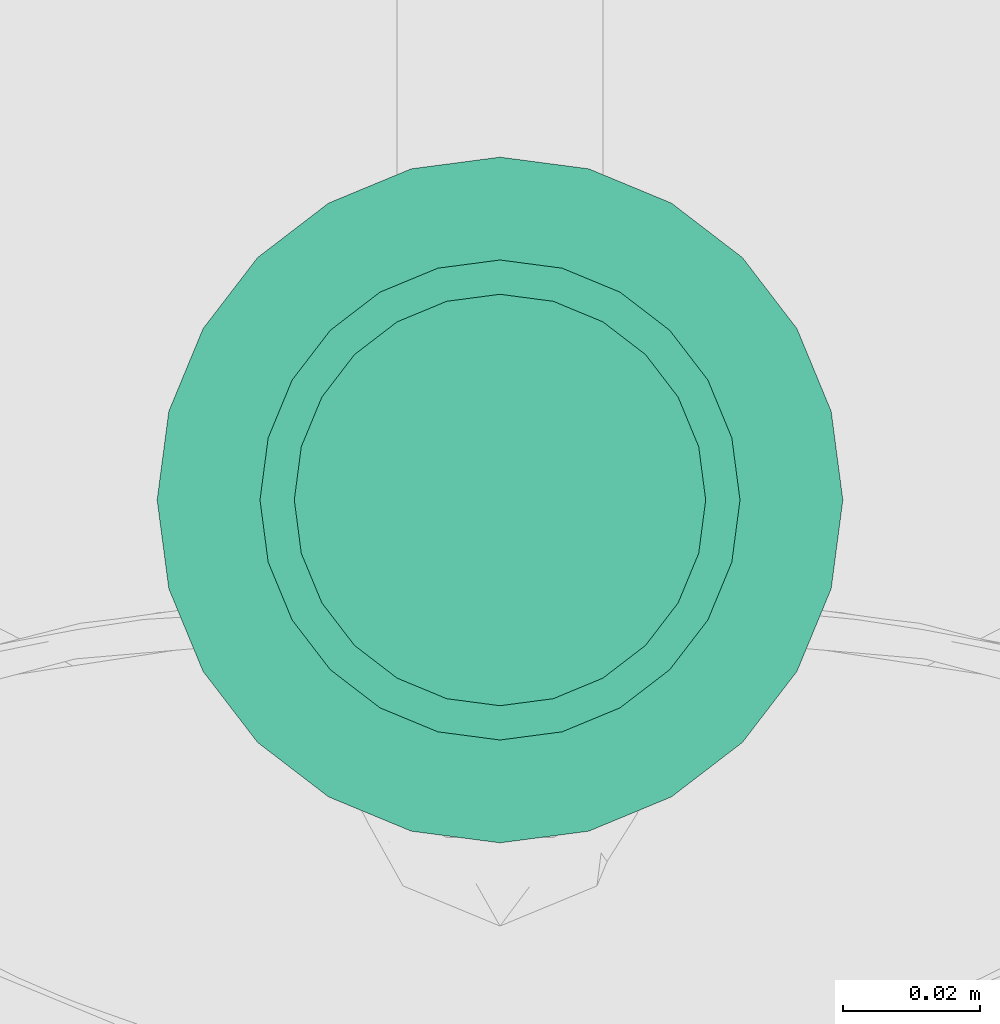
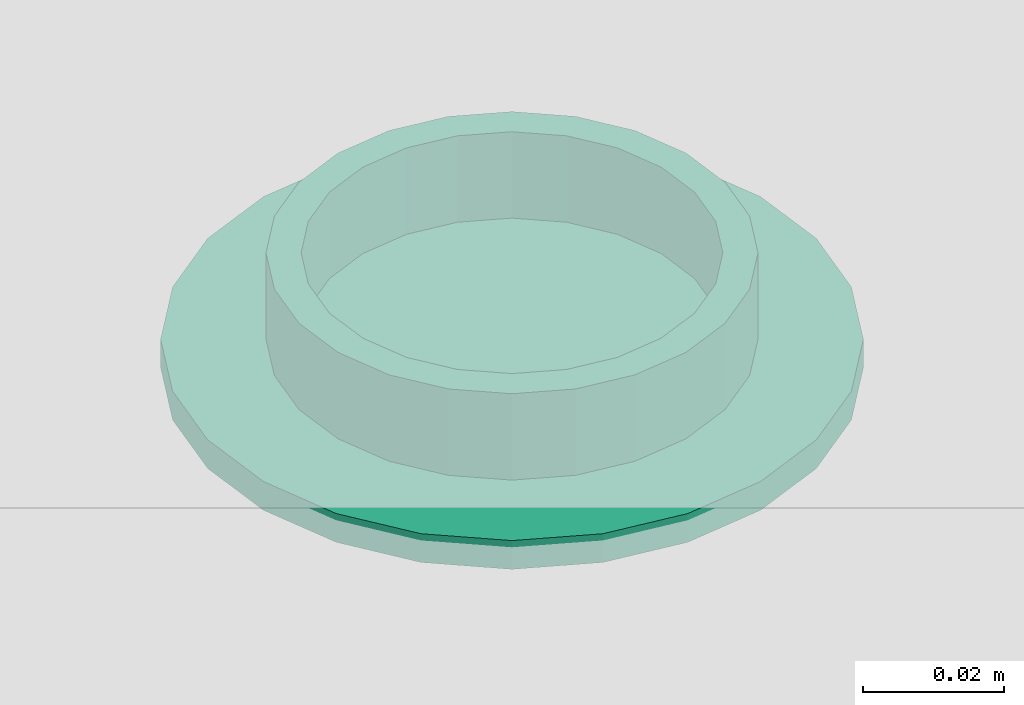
# One storey, part 23 of 40: 1 flow terminal.
"""IFC2X3 building model written with IfcOpenShell, lengths in metres."""

from ifc_helpers import new_model, entity, si_unit, converted_unit, derived_unit, direction, frame, origin, place, context, subcontext, project, spatial, faceted_brep, source, transform, mapped, material, material_list, type_object, type_shapes, element, save


model = new_model("IFC2X3")

# Units and contexts
model_context = context("Model", 3, precision=1e-05, world=origin(), true_north=direction((6.12303176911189e-17, 1.0)))
body_context = subcontext(model_context, "Body", "Model", "MODEL_VIEW")
ifc_project = project(units=[si_unit("LENGTHUNIT", "METRE"), si_unit("AREAUNIT", "SQUARE_METRE"), si_unit("VOLUMEUNIT", "CUBIC_METRE"), converted_unit("PLANEANGLEUNIT", "DEGREE", entity("IfcRatioMeasure", 0.0174532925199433), si_unit("PLANEANGLEUNIT", "RADIAN"), dimensions=[0, 0, 0, 0, 0, 0, 0]), si_unit("MASSUNIT", "GRAM", prefix="KILO"), derived_unit("MASSDENSITYUNIT", [(si_unit("MASSUNIT", "GRAM", prefix="KILO"), 1), (si_unit("LENGTHUNIT", "METRE"), -3)]), si_unit("TIMEUNIT", "SECOND"), si_unit("FREQUENCYUNIT", "HERTZ"), si_unit("THERMODYNAMICTEMPERATUREUNIT", "DEGREE_CELSIUS"), derived_unit("THERMALTRANSMITTANCEUNIT", [(si_unit("MASSUNIT", "GRAM", prefix="KILO"), 1), (si_unit("THERMODYNAMICTEMPERATUREUNIT", "KELVIN"), -1), (si_unit("TIMEUNIT", "SECOND"), -3)]), derived_unit("VOLUMETRICFLOWRATEUNIT", [(si_unit("LENGTHUNIT", "METRE"), 3), (si_unit("TIMEUNIT", "SECOND"), -1)]), si_unit("ELECTRICCURRENTUNIT", "AMPERE"), si_unit("ELECTRICVOLTAGEUNIT", "VOLT"), si_unit("POWERUNIT", "WATT"), si_unit("FORCEUNIT", "NEWTON", prefix="KILO"), si_unit("ILLUMINANCEUNIT", "LUX"), si_unit("LUMINOUSFLUXUNIT", "LUMEN"), si_unit("LUMINOUSINTENSITYUNIT", "CANDELA"), derived_unit("USERDEFINED", [(si_unit("MASSUNIT", "GRAM", prefix="KILO"), -1), (si_unit("LENGTHUNIT", "METRE"), -2), (si_unit("TIMEUNIT", "SECOND"), 3), (si_unit("LUMINOUSFLUXUNIT", "LUMEN"), 1)]), derived_unit("LINEARVELOCITYUNIT", [(si_unit("LENGTHUNIT", "METRE"), 1), (si_unit("TIMEUNIT", "SECOND"), -1)]), si_unit("PRESSUREUNIT", "PASCAL"), derived_unit("USERDEFINED", [(si_unit("LENGTHUNIT", "METRE"), -2), (si_unit("MASSUNIT", "GRAM", prefix="KILO"), 1), (si_unit("TIMEUNIT", "SECOND"), -2)])], contexts=[model_context])

# Site, building, storey, space
site_placement = place(None, origin())
site = spatial("IfcSite", under=ifc_project, at=site_placement, Name="Surface", CompositionType="ELEMENT")
building_placement = place(site_placement, origin())
building = spatial("IfcBuilding", under=site, at=building_placement, CompositionType="ELEMENT")
storey_placement = place(building_placement, origin())
storey = spatial("IfcBuildingStorey", under=building, at=storey_placement, Name="RDC", CompositionType="ELEMENT", Elevation=-1.0941605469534e-13)
space_placement = place(storey_placement, origin())
space = spatial("IfcSpace", under=storey, at=space_placement, Name="22", CompositionType="ELEMENT", InteriorOrExteriorSpace="INTERNAL")

# Flow terminal
ifc_material_1 = material(Name="Verre - Lampe")
ifc_material_2 = material(Name="Plastique - Blanc")
ifc_material_list_1 = material_list([ifc_material_1, ifc_material_2])
ifc_material_list_2 = material_list([ifc_material_1, ifc_material_2])
light_fixture_type = type_object("IfcLightFixtureType", Name="Encastrable", PredefinedType="NOTDEFINED", material=ifc_material_list_2)
shared_shape = source(origin(), body_context, "Body", "Brep", [
    faceted_brep([(0.0593598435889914, 0.0226174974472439, 0.00300000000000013), (0.0515952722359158, 0.021595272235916, 0.00300000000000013), (0.0438307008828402, 0.022617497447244, 0.00300000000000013), (0.0365952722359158, 0.0256145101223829, 0.0030000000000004), (0.0303820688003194, 0.0303820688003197, 0.0030000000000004), (0.0256145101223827, 0.0365952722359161, 0.0030000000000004), (0.0226174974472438, 0.0438307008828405, 0.0030000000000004), (0.0215952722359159, 0.0515952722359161, 0.0030000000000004), (0.0226174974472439, 0.0593598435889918, 0.0030000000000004), (0.0256145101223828, 0.0665952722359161, 0.0030000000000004), (0.0303820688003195, 0.0728084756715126, 0.0030000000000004), (0.036595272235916, 0.0775760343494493, 0.0030000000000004), (0.0438307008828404, 0.0805730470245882, 0.00300000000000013), (0.051595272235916, 0.0815952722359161, 0.00300000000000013), (0.0593598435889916, 0.0805730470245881, 0.00300000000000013), (0.066595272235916, 0.0775760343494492, 0.00300000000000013), (0.0728084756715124, 0.0728084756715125, 0.00300000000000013), (0.0775760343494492, 0.0665952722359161, 0.00300000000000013), (0.080573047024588, 0.0593598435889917, 0.00300000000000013), (0.081595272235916, 0.0515952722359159, 0.00300000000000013), (0.080573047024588, 0.0438307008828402, 0.00300000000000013), (0.0775760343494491, 0.0365952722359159, 0.00300000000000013), (0.0728084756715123, 0.0303820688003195, 0.00300000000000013), (0.0665952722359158, 0.0256145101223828, 0.00300000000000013), (0.066595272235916, 0.0775760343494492, 0.00500000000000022), (0.0593598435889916, 0.0805730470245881, 0.00500000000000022), (0.051595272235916, 0.0815952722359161, 0.00500000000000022), (0.0438307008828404, 0.0805730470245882, 0.00500000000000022), (0.036595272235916, 0.0775760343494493, 0.00500000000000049), (0.0303820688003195, 0.0728084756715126, 0.00500000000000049), (0.0256145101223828, 0.0665952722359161, 0.00500000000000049), (0.0226174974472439, 0.0593598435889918, 0.00500000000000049), (0.0215952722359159, 0.0515952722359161, 0.00500000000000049), (0.0226174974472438, 0.0438307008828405, 0.00500000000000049), (0.0256145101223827, 0.0365952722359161, 0.00500000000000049), (0.0303820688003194, 0.0303820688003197, 0.00500000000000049), (0.0365952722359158, 0.0256145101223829, 0.00500000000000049), (0.0438307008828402, 0.022617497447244, 0.00500000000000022), (0.0515952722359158, 0.021595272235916, 0.00500000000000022), (0.0593598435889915, 0.0226174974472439, 0.00500000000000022), (0.0665952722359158, 0.0256145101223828, 0.00500000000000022), (0.0728084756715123, 0.0303820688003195, 0.00500000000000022), (0.0775760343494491, 0.0365952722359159, 0.00500000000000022), (0.080573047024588, 0.0438307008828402, 0.00500000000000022), (0.081595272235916, 0.051595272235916, 0.00500000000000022), (0.0805730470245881, 0.0593598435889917, 0.00500000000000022), (0.0775760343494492, 0.0665952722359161, 0.00500000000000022), (0.0728084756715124, 0.0728084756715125, 0.00500000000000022)], [[[0, 1, 2, 3, 4, 5, 6, 7, 8, 9, 10, 11, 12, 13, 14, 15, 16, 17, 18, 19, 20, 21, 22, 23]], [[24, 25, 26, 27, 28, 29, 30, 31, 32, 33, 34, 35, 36, 37, 38, 39, 40, 41, 42, 43, 44, 45, 46, 47]], [[32, 7, 6, 33]], [[33, 6, 5, 34]], [[36, 35, 4, 3]], [[4, 35, 34, 5]], [[37, 36, 3, 2]], [[37, 2, 1, 38]], [[38, 1, 0, 39]], [[39, 0, 23, 40]], [[42, 41, 22, 21]], [[22, 41, 40, 23]], [[43, 42, 21, 20]], [[43, 20, 19, 44]], [[44, 19, 18, 45]], [[45, 18, 17, 46]], [[24, 47, 16, 15]], [[16, 47, 46, 17]], [[25, 24, 15, 14]], [[25, 14, 13, 26]], [[26, 13, 12, 27]], [[27, 12, 11, 28]], [[30, 29, 10, 9]], [[10, 29, 28, 11]], [[31, 30, 9, 8]], [[31, 8, 7, 32]]]),
    faceted_brep([(0.066595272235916, 0.0256145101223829, 0.0), (0.0869506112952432, 0.0162399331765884, 0.0), (0.0765952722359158, 0.00829400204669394, 0.0), (0.0728084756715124, 0.0303820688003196, 0.0), (0.0593598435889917, 0.022617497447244, 0.0), (0.0948965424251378, 0.0265952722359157, 0.0), (0.0775760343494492, 0.036595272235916, 0.0), (0.080573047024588, 0.0438307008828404, 0.0), (0.0998915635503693, 0.0386543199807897, 0.0), (0.081595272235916, 0.0515952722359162, 0.0), (0.101595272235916, 0.0515952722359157, 0.0), (0.080573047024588, 0.0593598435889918, 0.0), (0.0998915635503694, 0.064536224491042, 0.0), (0.0775760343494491, 0.0665952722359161, 0.0), (0.0948965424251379, 0.076595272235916, 0.0), (0.0728084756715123, 0.0728084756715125, 0.0), (0.0869506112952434, 0.0869506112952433, 0.0), (0.0665952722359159, 0.0775760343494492, 0.0), (0.076595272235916, 0.0948965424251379, 0.0), (0.0593598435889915, 0.0805730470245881, 0.0), (0.0645362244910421, 0.0998915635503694, 0.0), (0.0515952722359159, 0.081595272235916, 0.0), (0.0515952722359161, 0.101595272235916, 0.0), (0.0438307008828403, 0.080573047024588, 0.0), (0.03865431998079, 0.0998915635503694, 0.0), (0.0365952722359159, 0.0775760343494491, 0.0), (0.0265952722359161, 0.094896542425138, 0.0), (0.0303820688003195, 0.0728084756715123, 0.0), (0.0162399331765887, 0.0869506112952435, 0.0), (0.0256145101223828, 0.0665952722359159, 0.0), (0.00829400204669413, 0.0765952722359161, 0.0), (0.00329898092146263, 0.0645362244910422, 0.0), (0.0226174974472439, 0.0593598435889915, 0.0), (0.001595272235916, 0.0515952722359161, 0.0), (0.021595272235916, 0.0515952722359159, 0.0), (0.00329898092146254, 0.0386543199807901, 0.0), (0.022617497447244, 0.0438307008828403, 0.0), (0.00829400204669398, 0.0265952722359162, 0.0), (0.0256145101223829, 0.0365952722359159, 0.0), (0.0162399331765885, 0.0162399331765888, 0.0), (0.0303820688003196, 0.0303820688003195, 0.0), (0.0265952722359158, 0.00829400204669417, 0.0), (0.036595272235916, 0.0256145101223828, 0.0), (0.0386543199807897, 0.00329898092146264, 0.0), (0.0438307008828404, 0.0226174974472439, 0.0), (0.0515952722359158, 0.001595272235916, 0.0), (0.051595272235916, 0.021595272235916, 0.0), (0.0645362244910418, 0.00329898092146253, 0.0), (0.0690952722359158, 0.0819061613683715, 0.00499999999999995), (0.0869506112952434, 0.0869506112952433, 0.00499999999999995), (0.0765952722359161, 0.0948965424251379, 0.00499999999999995), (0.076344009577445, 0.0763440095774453, 0.00499999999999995), (0.060653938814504, 0.0854026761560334, 0.00499999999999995), (0.0948965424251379, 0.076595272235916, 0.00499999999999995), (0.0819061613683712, 0.0690952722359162, 0.00499999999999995), (0.0854026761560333, 0.0606539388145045, 0.00499999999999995), (0.0998915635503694, 0.064536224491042, 0.00499999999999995), (0.086595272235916, 0.0515952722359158, 0.00499999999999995), (0.101595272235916, 0.051595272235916, 0.00499999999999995), (0.0854026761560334, 0.0425366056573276, 0.00499999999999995), (0.0998915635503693, 0.0386543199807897, 0.00499999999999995), (0.0819061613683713, 0.0340952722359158, 0.00499999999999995), (0.0948965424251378, 0.0265952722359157, 0.00499999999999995), (0.076344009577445, 0.0268465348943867, 0.00499999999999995), (0.0869506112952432, 0.0162399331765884, 0.00499999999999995), (0.0690952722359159, 0.0212843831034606, 0.00499999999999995), (0.0765952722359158, 0.00829400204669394, 0.00499999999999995), (0.0606539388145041, 0.0177878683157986, 0.00499999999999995), (0.0645362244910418, 0.00329898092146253, 0.00499999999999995), (0.0515952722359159, 0.016595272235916, 0.00500000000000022), (0.0515952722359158, 0.001595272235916, 0.00500000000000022), (0.0425366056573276, 0.0177878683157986, 0.00500000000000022), (0.0386543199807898, 0.00329898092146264, 0.00500000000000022), (0.0340952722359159, 0.0212843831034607, 0.00500000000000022), (0.0265952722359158, 0.00829400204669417, 0.00500000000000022), (0.0268465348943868, 0.0268465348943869, 0.00500000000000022), (0.0162399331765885, 0.0162399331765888, 0.00500000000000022), (0.0212843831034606, 0.0340952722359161, 0.00500000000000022), (0.008294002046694, 0.0265952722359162, 0.00500000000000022), (0.00329898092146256, 0.0386543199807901, 0.00500000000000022), (0.0177878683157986, 0.0425366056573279, 0.00500000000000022), (0.00159527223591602, 0.0515952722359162, 0.00500000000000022), (0.016595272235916, 0.0515952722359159, 0.00500000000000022), (0.00329898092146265, 0.0645362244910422, 0.00500000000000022), (0.0177878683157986, 0.0606539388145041, 0.00500000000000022), (0.00829400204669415, 0.0765952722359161, 0.00500000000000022), (0.0212843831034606, 0.0690952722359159, 0.00500000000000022), (0.0162399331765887, 0.0869506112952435, 0.00500000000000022), (0.0268465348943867, 0.0763440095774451, 0.00500000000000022), (0.0265952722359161, 0.094896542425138, 0.00500000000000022), (0.0340952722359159, 0.0819061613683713, 0.00500000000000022), (0.0386543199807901, 0.0998915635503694, 0.00500000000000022), (0.0425366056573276, 0.0854026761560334, 0.00500000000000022), (0.0515952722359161, 0.101595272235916, 0.00500000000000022), (0.0515952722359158, 0.086595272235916, 0.00500000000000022), (0.0645362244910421, 0.0998915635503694, 0.00499999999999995), (0.0226174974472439, 0.0593598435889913, 0.00500000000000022), (0.022617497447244, 0.0593598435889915, 0.0200000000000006), (0.0215952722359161, 0.0515952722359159, 0.0200000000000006), (0.021595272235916, 0.0515952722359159, 0.00500000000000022), (0.0256145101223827, 0.0665952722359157, 0.00500000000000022), (0.0256145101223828, 0.0665952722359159, 0.0200000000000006), (0.0303820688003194, 0.0728084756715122, 0.00500000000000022), (0.0365952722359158, 0.077576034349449, 0.00500000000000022), (0.036595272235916, 0.0775760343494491, 0.0200000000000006), (0.0303820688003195, 0.0728084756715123, 0.0200000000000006), (0.0438307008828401, 0.080573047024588, 0.00500000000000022), (0.0438307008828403, 0.080573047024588, 0.0200000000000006), (0.0515952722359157, 0.081595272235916, 0.00500000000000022), (0.0515952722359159, 0.081595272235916, 0.0200000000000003), (0.0665952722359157, 0.0775760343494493, 0.00499999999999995), (0.0665952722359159, 0.0775760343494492, 0.0200000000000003), (0.0593598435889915, 0.0805730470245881, 0.0200000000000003), (0.0593598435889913, 0.0805730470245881, 0.00499999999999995), (0.0728084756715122, 0.0728084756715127, 0.00499999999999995), (0.0728084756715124, 0.0728084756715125, 0.0200000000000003), (0.077576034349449, 0.0665952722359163, 0.00499999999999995), (0.080573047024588, 0.059359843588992, 0.00499999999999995), (0.080573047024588, 0.0593598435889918, 0.0200000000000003), (0.0775760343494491, 0.0665952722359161, 0.0200000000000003), (0.081595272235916, 0.0515952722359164, 0.00499999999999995), (0.0815952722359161, 0.051595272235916, 0.0200000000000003), (0.0805730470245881, 0.0438307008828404, 0.00499999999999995), (0.0805730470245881, 0.0438307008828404, 0.0200000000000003), (0.0775760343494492, 0.036595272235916, 0.00499999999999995), (0.0775760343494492, 0.036595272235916, 0.0200000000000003), (0.0728084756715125, 0.0303820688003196, 0.00499999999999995), (0.066595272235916, 0.0256145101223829, 0.00499999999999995), (0.0665952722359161, 0.0256145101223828, 0.0200000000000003), (0.0728084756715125, 0.0303820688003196, 0.0200000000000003), (0.0593598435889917, 0.022617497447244, 0.00499999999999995), (0.0593598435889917, 0.022617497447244, 0.0200000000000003), (0.0515952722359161, 0.021595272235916, 0.00500000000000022), (0.0515952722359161, 0.021595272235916, 0.0200000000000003), (0.0365952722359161, 0.0256145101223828, 0.00500000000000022), (0.0365952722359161, 0.0256145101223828, 0.0200000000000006), (0.0438307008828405, 0.0226174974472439, 0.0200000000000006), (0.0438307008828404, 0.0226174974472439, 0.00500000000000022), (0.0303820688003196, 0.0303820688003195, 0.00500000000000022), (0.0303820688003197, 0.0303820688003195, 0.0200000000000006), (0.0256145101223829, 0.0365952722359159, 0.00500000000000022), (0.022617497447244, 0.0438307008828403, 0.00500000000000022), (0.022617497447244, 0.0438307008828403, 0.0200000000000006), (0.0256145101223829, 0.0365952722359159, 0.0200000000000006), (0.0763440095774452, 0.0763440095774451, 0.0200000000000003), (0.0690952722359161, 0.0819061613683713, 0.0200000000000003), (0.0819061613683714, 0.069095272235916, 0.0200000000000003), (0.0854026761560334, 0.0606539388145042, 0.0200000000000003), (0.0865952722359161, 0.051595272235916, 0.0200000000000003), (0.0854026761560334, 0.0425366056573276, 0.0200000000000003), (0.0819061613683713, 0.0340952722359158, 0.0200000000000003), (0.0763440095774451, 0.0268465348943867, 0.0200000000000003), (0.0690952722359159, 0.0212843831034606, 0.0200000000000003), (0.0606539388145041, 0.0177878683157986, 0.0200000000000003), (0.0515952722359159, 0.016595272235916, 0.0200000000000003), (0.0425366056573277, 0.0177878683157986, 0.0200000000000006), (0.0340952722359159, 0.0212843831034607, 0.0200000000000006), (0.0268465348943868, 0.0268465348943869, 0.0200000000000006), (0.0212843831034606, 0.0340952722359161, 0.0200000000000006), (0.0177878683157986, 0.0425366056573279, 0.0200000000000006), (0.0165952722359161, 0.0515952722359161, 0.0200000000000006), (0.0177878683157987, 0.0606539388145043, 0.0200000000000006), (0.0212843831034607, 0.0690952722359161, 0.0200000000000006), (0.0268465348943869, 0.0763440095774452, 0.0200000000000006), (0.0340952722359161, 0.0819061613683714, 0.0200000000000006), (0.0425366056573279, 0.0854026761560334, 0.0200000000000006), (0.0515952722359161, 0.086595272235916, 0.0200000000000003), (0.0606539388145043, 0.0854026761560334, 0.0200000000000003)], [[[0, 1, 2]], [[3, 1, 0]], [[4, 0, 2]], [[1, 3, 5]], [[5, 3, 6]], [[5, 6, 7]], [[8, 5, 7]], [[9, 8, 7]], [[10, 8, 9]], [[10, 9, 11]], [[12, 10, 11]], [[12, 11, 13]], [[14, 12, 13]], [[14, 13, 15]], [[15, 16, 14]], [[15, 17, 16]], [[18, 16, 17]], [[19, 18, 17]], [[18, 19, 20]], [[21, 20, 19]], [[22, 20, 21]], [[21, 23, 22]], [[24, 22, 23]], [[25, 24, 23]], [[24, 25, 26]], [[25, 27, 26]], [[27, 28, 26]], [[28, 27, 29]], [[28, 29, 30]], [[30, 29, 31]], [[31, 29, 32]], [[33, 31, 32]], [[32, 34, 33]], [[33, 34, 35]], [[34, 36, 35]], [[37, 35, 36]], [[37, 36, 38]], [[39, 37, 38]], [[40, 39, 38]], [[40, 41, 39]], [[42, 41, 40]], [[43, 41, 42]], [[42, 44, 43]], [[43, 44, 45]], [[46, 45, 44]], [[46, 4, 47]], [[45, 46, 47]], [[2, 47, 4]], [[48, 49, 50]], [[51, 49, 48]], [[52, 48, 50]], [[49, 51, 53]], [[53, 51, 54]], [[53, 54, 55]], [[56, 53, 55]], [[57, 56, 55]], [[58, 56, 57]], [[58, 57, 59]], [[60, 58, 59]], [[60, 59, 61]], [[62, 60, 61]], [[62, 61, 63]], [[63, 64, 62]], [[63, 65, 64]], [[66, 64, 65]], [[67, 66, 65]], [[66, 67, 68]], [[69, 68, 67]], [[70, 68, 69]], [[69, 71, 70]], [[72, 70, 71]], [[73, 72, 71]], [[72, 73, 74]], [[73, 75, 74]], [[75, 76, 74]], [[76, 75, 77]], [[76, 77, 78]], [[78, 77, 79]], [[79, 77, 80]], [[81, 79, 80]], [[80, 82, 81]], [[81, 82, 83]], [[82, 84, 83]], [[85, 83, 84]], [[85, 84, 86]], [[87, 85, 86]], [[88, 87, 86]], [[88, 89, 87]], [[90, 89, 88]], [[91, 89, 90]], [[90, 92, 91]], [[91, 92, 93]], [[94, 93, 92]], [[94, 52, 95]], [[93, 94, 95]], [[50, 95, 52]], [[81, 33, 35, 79]], [[79, 35, 37, 78]], [[74, 76, 39, 41]], [[39, 76, 78, 37]], [[72, 74, 41, 43]], [[72, 43, 45, 70]], [[70, 45, 47, 68]], [[68, 47, 2, 66]], [[62, 64, 1, 5]], [[1, 64, 66, 2]], [[60, 62, 5, 8]], [[60, 8, 10, 58]], [[58, 10, 12, 56]], [[56, 12, 14, 53]], [[50, 49, 16, 18]], [[16, 49, 53, 14]], [[95, 50, 18, 20]], [[95, 20, 22, 93]], [[93, 22, 24, 91]], [[91, 24, 26, 89]], [[85, 87, 28, 30]], [[28, 87, 89, 26]], [[83, 85, 30, 31]], [[83, 31, 33, 81]], [[32, 96, 97, 98, 99, 34]], [[29, 100, 101, 97, 96, 32]], [[102, 27, 25, 103, 104, 105]], [[29, 27, 102, 105, 101, 100]], [[103, 25, 23, 106, 107, 104]], [[106, 23, 21, 108, 109, 107]], [[17, 110, 111, 112, 113, 19]], [[15, 114, 115, 111, 110, 17]], [[116, 13, 11, 117, 118, 119]], [[15, 13, 116, 119, 115, 114]], [[117, 11, 9, 120, 121, 118]], [[113, 112, 109, 108, 21, 19]], [[7, 122, 123, 121, 120, 9]], [[6, 124, 125, 123, 122, 7]], [[126, 3, 0, 127, 128, 129]], [[6, 3, 126, 129, 125, 124]], [[127, 0, 4, 130, 131, 128]], [[130, 4, 46, 132, 133, 131]], [[42, 134, 135, 136, 137, 44]], [[40, 138, 139, 135, 134, 42]], [[140, 38, 36, 141, 142, 143]], [[40, 38, 140, 143, 139, 138]], [[141, 36, 34, 99, 98, 142]], [[137, 136, 133, 132, 46, 44]], [[111, 144, 145]], [[115, 144, 111]], [[112, 111, 145]], [[144, 115, 146]], [[146, 115, 119]], [[146, 119, 118]], [[147, 146, 118]], [[121, 147, 118]], [[148, 147, 121]], [[148, 121, 123]], [[149, 148, 123]], [[149, 123, 125]], [[150, 149, 125]], [[150, 125, 129]], [[129, 151, 150]], [[129, 128, 151]], [[128, 152, 151]], [[131, 152, 128]], [[152, 131, 153]], [[133, 153, 131]], [[154, 153, 133]], [[136, 154, 133]], [[155, 154, 136]], [[135, 155, 136]], [[155, 135, 156]], [[135, 139, 156]], [[157, 156, 139]], [[157, 139, 143]], [[157, 143, 158]], [[158, 143, 159]], [[159, 143, 142]], [[160, 159, 142]], [[160, 142, 98]], [[160, 98, 161]], [[98, 97, 161]], [[162, 161, 97]], [[162, 97, 101]], [[163, 162, 101]], [[105, 163, 101]], [[105, 164, 163]], [[104, 164, 105]], [[165, 164, 104]], [[104, 107, 165]], [[165, 107, 166]], [[107, 109, 166]], [[109, 112, 167]], [[166, 109, 167]], [[145, 167, 112]], [[160, 82, 80, 159]], [[159, 80, 77, 158]], [[156, 157, 75, 73]], [[75, 157, 158, 77]], [[155, 156, 73, 71]], [[155, 71, 69, 154]], [[154, 69, 67, 153]], [[153, 67, 65, 152]], [[150, 151, 63, 61]], [[63, 151, 152, 65]], [[149, 150, 61, 59]], [[149, 59, 57, 148]], [[148, 57, 55, 147]], [[147, 55, 54, 146]], [[145, 144, 51, 48]], [[51, 144, 146, 54]], [[167, 145, 48, 52]], [[167, 52, 94, 166]], [[166, 94, 92, 165]], [[165, 92, 90, 164]], [[162, 163, 88, 86]], [[88, 163, 164, 90]], [[161, 162, 86, 84]], [[161, 84, 82, 160]]]),
])
type_shapes(light_fixture_type, [shared_shape])
flow_terminal_placement = place(space_placement, frame((14.1929009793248, 2.01041540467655, 1.89999999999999)))
element("IfcFlowTerminal", 1, at=flow_terminal_placement, inside=space, type_object=light_fixture_type, material=ifc_material_list_1, Name="Spot:Encastrable", ObjectType="Encastrable", context=body_context, shape_type="MappedRepresentation", body=[
    mapped(shared_shape, transform((0.0, 0.0, 0.0), scale=1.0)),
])

save(model, "model.ifc")
